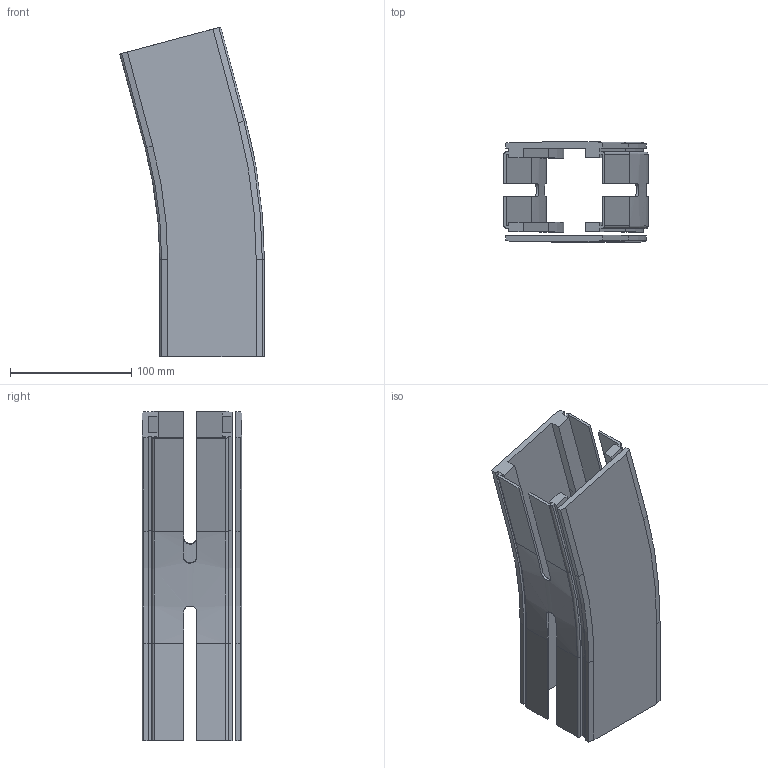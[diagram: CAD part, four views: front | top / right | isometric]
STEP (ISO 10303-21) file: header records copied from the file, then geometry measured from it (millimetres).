
FILE_DESCRIPTION(/* description */ ('GLIDKURVA SERIE 530'),/* implementation_level */ '2;1');
FILE_NAME(/* name */ '530-5375+830-2000-01.stp',/* time_stamp */ '2022-09-20T15:05:35+02:00',/* author */ ('Mathias.Dore'),/* organization */ ('CARRYLINE'),/* preprocessor_version */ 'ST-DEVELOPER v19.2',/* originating_system */ 'Autodesk Inventor 2023',/* authorisation */ '');
FILE_SCHEMA (('AUTOMOTIVE_DESIGN { 1 0 10303 214 3 1 1 }'));
Length unit declared in the file: millimetre
Products named in the file (1): 530-5375+830-2000-01
Bounding box: 118.87 x 82 x 271.93 mm (x, y, z)
Volume: 383207.4 mm3; surface area: 185277.6 mm2
Topology: 2 solids, 2 shells, 167 faces, 458 edges, 300 vertices
Faces by surface type: plane 113, cylinder 28, bspline 18, torus 4, cone 4
Entity records: 5625 total; most frequent: CARTESIAN_POINT 1332, ORIENTED_EDGE 916, DIRECTION 802, EDGE_CURVE 458, LINE 342, VECTOR 342, VERTEX_POINT 300, AXIS2_PLACEMENT_3D 230
